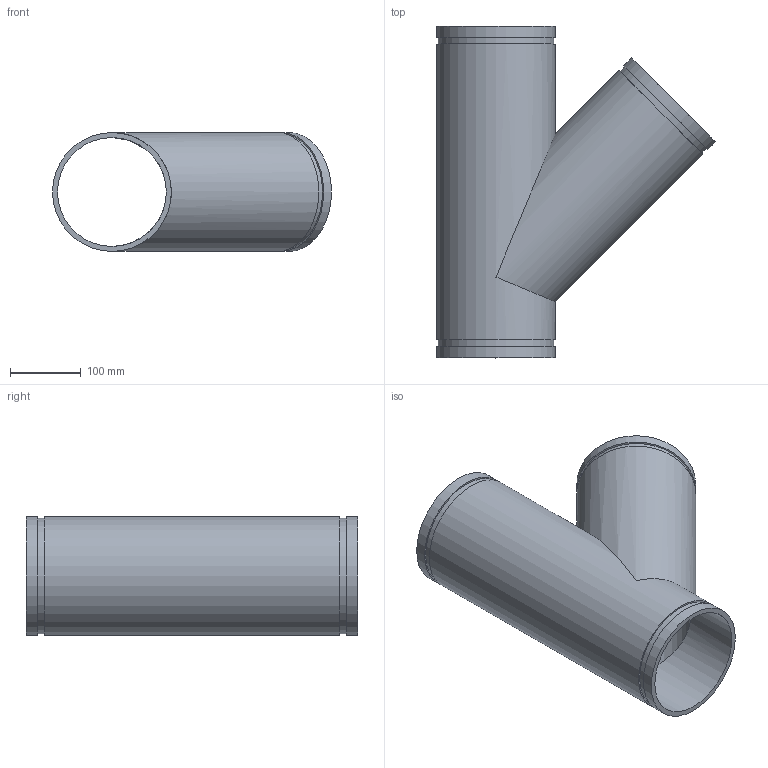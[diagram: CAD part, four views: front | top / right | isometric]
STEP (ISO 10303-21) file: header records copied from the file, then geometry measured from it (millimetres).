
FILE_DESCRIPTION(/* description */ ('VIC 45 DEG FABRICATED LATERAL No 30 SWS (OGS)','CAx-IF Rec.Pracs.---Representation and Presentation of Product Manufacturing Information (PMI)---4.0---2014-10-13'),/* implementation_level */ '2;1');
FILE_NAME(/* name */ 'C:\Users\kkamble\AppData\Roaming\Autodesk\ApplicationPlugins\Back Up\Victaulic_IPS_Lateral 45 Deg_No 30 SWS (OGS)\Victaulic_IPS_Lateral 45 Deg_No 30 SWS (OGS)_6 (150).stp',/* time_stamp */ '2020-09-16T22:20:57+06:00',/* author */ ('cgray'),/* organization */ ('Victaulic'),/* preprocessor_version */ 'ST-DEVELOPER v17.2',/* originating_system */ 'Autodesk Inventor 2019',/* authorisation */ '');
FILE_SCHEMA (('AP242_MANAGED_MODEL_BASED_3D_ENGINEERING_MIM_LF { 1 0 10303 442 1 1 4 }'));
Length unit declared in the file: inch
Products named in the file (1): 30 SWS-06.0
Bounding box: 395.08 x 469.9 x 168.28 mm (x, y, z)
Volume: 2417502.8 mm3; surface area: 705876.1 mm2
Topology: 1 solids, 1 shells, 19 faces, 45 edges, 34 vertices
Faces by surface type: cylinder 10, plane 9
Full cylindrical faces by diameter (mm): 154.051 x2, 163.957 x3, 168.275 x5
Entity records: 748 total; most frequent: DIRECTION 145, CARTESIAN_POINT 116, ORIENTED_EDGE 90, AXIS2_PLACEMENT_3D 67, EDGE_CURVE 45, VERTEX_POINT 34, EDGE_LOOP 29, CIRCLE 27
